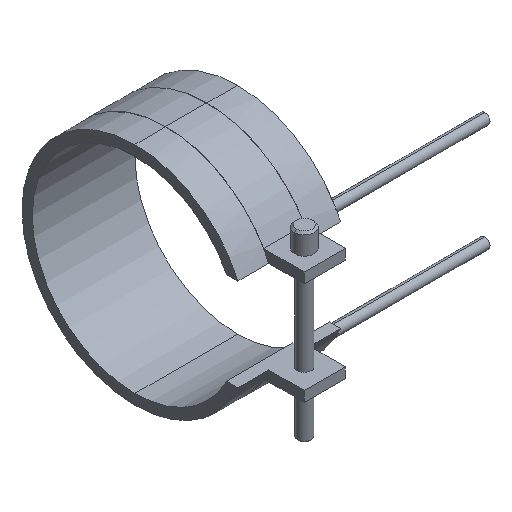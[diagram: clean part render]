
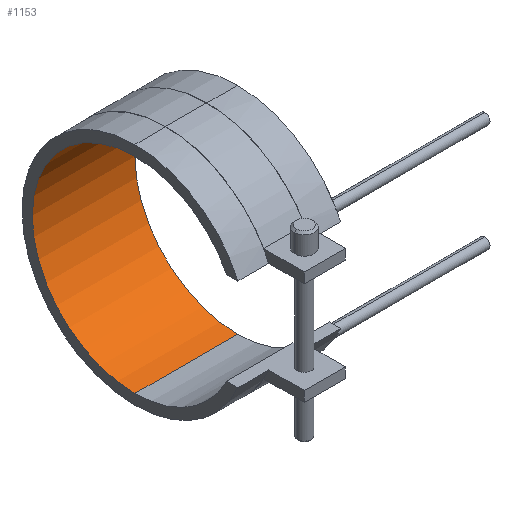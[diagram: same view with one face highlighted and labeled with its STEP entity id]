
A CAD part, isometric view. The second image highlights one B-rep face of the part: STEP entity #1153.
In plain terms, the highlighted cylindrical face has radius 40 mm (diameter 80 mm), a partial arc.
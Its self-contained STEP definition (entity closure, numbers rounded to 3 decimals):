
#834=CARTESIAN_POINT('Vertex',(-20.,0.,-40.)) ;
#841=CARTESIAN_POINT('Vertex',(20.,0.,-40.)) ;
#844=CARTESIAN_POINT('Line Origine',(20.,0.,-40.)) ;
#862=CARTESIAN_POINT('Axis2P3D Location',(-20.,0.,0.)) ;
#866=CARTESIAN_POINT('Vertex',(-20.,0.,40.)) ;
#923=CARTESIAN_POINT('Vertex',(20.,0.,40.)) ;
#933=CARTESIAN_POINT('Line Origine',(20.,0.,40.)) ;
#1024=CARTESIAN_POINT('Axis2P3D Location',(20.,0.,0.)) ;
#1142=CARTESIAN_POINT('Axis2P3D Location',(20.,0.,0.)) ;
#845=DIRECTION('Vector Direction',(1.,0.,0.)) ;
#863=DIRECTION('Axis2P3D Direction',(1.,0.,0.)) ;
#934=DIRECTION('Vector Direction',(1.,0.,0.)) ;
#1025=DIRECTION('Axis2P3D Direction',(1.,0.,0.)) ;
#1143=DIRECTION('Axis2P3D Direction',(1.,0.,-0.)) ;
#1144=DIRECTION('Axis2P3D XDirection',(0.,0.,-1.)) ;
#864=AXIS2_PLACEMENT_3D('Circle Axis2P3D',#862,#863,$) ;
#1026=AXIS2_PLACEMENT_3D('Circle Axis2P3D',#1024,#1025,$) ;
#1145=AXIS2_PLACEMENT_3D('Cylinder Axis2P3D',#1142,#1143,#1144) ;
#1148=ORIENTED_EDGE('',*,*,#1028,.T.) ;
#1149=ORIENTED_EDGE('',*,*,#937,.T.) ;
#1150=ORIENTED_EDGE('',*,*,#868,.F.) ;
#1151=ORIENTED_EDGE('',*,*,#848,.T.) ;
#846=VECTOR('Line Direction',#845,1.) ;
#935=VECTOR('Line Direction',#934,1.) ;
#1153=ADVANCED_FACE('14080040',(#1152),#1146,.F.) ;
#865=CIRCLE('generated circle',#864,40.) ;
#1027=CIRCLE('generated circle',#1026,40.) ;
#1146=CYLINDRICAL_SURFACE('generated cylinder',#1145,40.) ;
#848=EDGE_CURVE('',#835,#842,#847,.T.) ;
#868=EDGE_CURVE('',#835,#867,#865,.T.) ;
#937=EDGE_CURVE('',#924,#867,#936,.F.) ;
#1028=EDGE_CURVE('',#842,#924,#1027,.T.) ;
#1147=EDGE_LOOP('',(#1148,#1149,#1150,#1151)) ;
#1152=FACE_OUTER_BOUND('',#1147,.T.) ;
#847=LINE('Line',#844,#846) ;
#936=LINE('Line',#933,#935) ;
#835=VERTEX_POINT('',#834) ;
#842=VERTEX_POINT('',#841) ;
#867=VERTEX_POINT('',#866) ;
#924=VERTEX_POINT('',#923) ;
